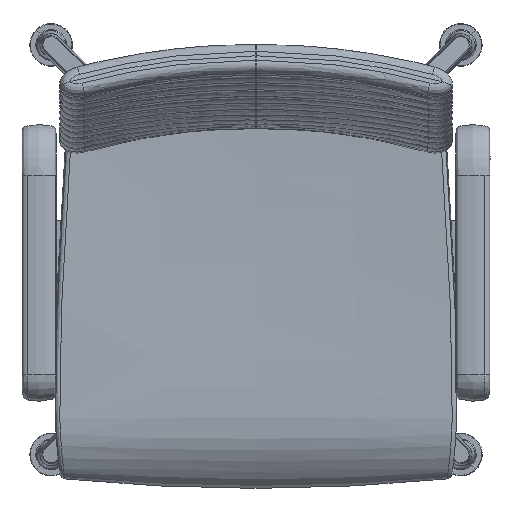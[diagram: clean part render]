
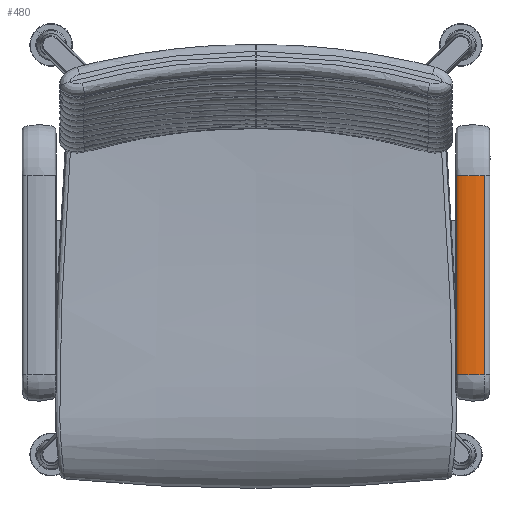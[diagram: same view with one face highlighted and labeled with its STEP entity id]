
A CAD part, top view. The second image highlights one B-rep face of the part: STEP entity #480.
In plain terms, the highlighted free-form (B-spline) face has degree [1, 3] with [2, 9] control points.
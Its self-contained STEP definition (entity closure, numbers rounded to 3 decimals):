
#480=ADVANCED_FACE('',(#919),#5962,.T.);
#919=FACE_OUTER_BOUND('',#1358,.T.);
#1358=EDGE_LOOP('',(#1803,#1804,#1805,#1806));
#1803=ORIENTED_EDGE('',*,*,#3603,.T.);
#1804=ORIENTED_EDGE('',*,*,#3601,.F.);
#1805=ORIENTED_EDGE('',*,*,#3604,.T.);
#1806=ORIENTED_EDGE('',*,*,#3602,.T.);
#3601=EDGE_CURVE('',#5378,#5377,#4606,.T.);
#3602=EDGE_CURVE('',#5380,#5379,#4607,.T.);
#3603=EDGE_CURVE('',#5379,#5377,#4608,.T.);
#3604=EDGE_CURVE('',#5378,#5380,#4609,.T.);
#4606=B_SPLINE_CURVE_WITH_KNOTS('',3,(#6687,#6688,#6689,#6690,#6691,#6692,
#6693),.UNSPECIFIED.,.F.,.F.,(4,1,1,1,4),(20.075,30.112,
40.15,50.187,52.794),.UNSPECIFIED.);
#4607=B_SPLINE_CURVE_WITH_KNOTS('',3,(#6694,#6695,#6696,#6697,#6698,#6699,
#6700),.UNSPECIFIED.,.F.,.F.,(4,1,1,1,4),(20.075,30.112,
40.15,50.187,52.794),.UNSPECIFIED.);
#4608=B_SPLINE_CURVE_WITH_KNOTS('',1,(#6701,#6702),.UNSPECIFIED.,.F.,.F.,
(2,2),(52.794,286.4),.UNSPECIFIED.);
#4609=B_SPLINE_CURVE_WITH_KNOTS('',1,(#6703,#6704),.UNSPECIFIED.,.F.,.F.,
(2,2),(432.66,666.266),.UNSPECIFIED.);
#5377=VERTEX_POINT('',#6625);
#5378=VERTEX_POINT('',#6626);
#5379=VERTEX_POINT('',#6627);
#5380=VERTEX_POINT('',#6628);
#5962=B_SPLINE_SURFACE_WITH_KNOTS('',1,3,((#6603,#6604,#6605,#6606,#6607,
#6608,#6609,#6610,#6611),(#6612,#6613,#6614,#6615,#6616,#6617,#6618,#6619,
#6620)),.UNSPECIFIED.,.F.,.F.,.F.,(2,2),(4,1,1,1,1,1,4),(0.,233.606),
(0.,10.037,20.075,30.112,40.15,
50.187,60.225),.UNSPECIFIED.);
#6603=CARTESIAN_POINT('',(274.668,-147.95,640.629));
#6604=CARTESIAN_POINT('',(274.668,-147.95,644.032));
#6605=CARTESIAN_POINT('',(274.668,-147.95,648.629));
#6606=CARTESIAN_POINT('',(269.776,-147.95,651.629));
#6607=CARTESIAN_POINT('',(254.668,-147.95,653.127));
#6608=CARTESIAN_POINT('',(239.56,-147.95,651.629));
#6609=CARTESIAN_POINT('',(234.668,-147.95,648.629));
#6610=CARTESIAN_POINT('',(234.668,-147.95,644.032));
#6611=CARTESIAN_POINT('',(234.668,-147.95,640.629));
#6612=CARTESIAN_POINT('',(274.668,85.656,640.629));
#6613=CARTESIAN_POINT('',(274.668,85.656,644.032));
#6614=CARTESIAN_POINT('',(274.668,85.656,648.629));
#6615=CARTESIAN_POINT('',(269.776,85.656,651.629));
#6616=CARTESIAN_POINT('',(254.668,85.656,653.127));
#6617=CARTESIAN_POINT('',(239.56,85.656,651.629));
#6618=CARTESIAN_POINT('',(234.668,85.656,648.629));
#6619=CARTESIAN_POINT('',(234.668,85.656,644.032));
#6620=CARTESIAN_POINT('',(234.668,85.656,640.629));
#6625=CARTESIAN_POINT('',(234.999,-147.95,646.556));
#6626=CARTESIAN_POINT('',(268.073,-147.95,651.379));
#6627=CARTESIAN_POINT('',(234.999,85.656,646.556));
#6628=CARTESIAN_POINT('',(268.073,85.656,651.379));
#6687=CARTESIAN_POINT('',(268.073,-147.95,651.379));
#6688=CARTESIAN_POINT('',(264.74,-147.95,652.128));
#6689=CARTESIAN_POINT('',(254.668,-147.95,653.127));
#6690=CARTESIAN_POINT('',(239.56,-147.95,651.629));
#6691=CARTESIAN_POINT('',(235.875,-147.95,649.369));
#6692=CARTESIAN_POINT('',(235.115,-147.95,647.079));
#6693=CARTESIAN_POINT('',(234.999,-147.95,646.556));
#6694=CARTESIAN_POINT('',(268.073,85.656,651.379));
#6695=CARTESIAN_POINT('',(264.74,85.656,652.128));
#6696=CARTESIAN_POINT('',(254.668,85.656,653.127));
#6697=CARTESIAN_POINT('',(239.56,85.656,651.629));
#6698=CARTESIAN_POINT('',(235.875,85.656,649.369));
#6699=CARTESIAN_POINT('',(235.115,85.656,647.079));
#6700=CARTESIAN_POINT('',(234.999,85.656,646.556));
#6701=CARTESIAN_POINT('',(234.999,85.656,646.556));
#6702=CARTESIAN_POINT('',(234.999,-147.95,646.556));
#6703=CARTESIAN_POINT('',(268.073,-147.95,651.379));
#6704=CARTESIAN_POINT('',(268.073,85.656,651.379));
